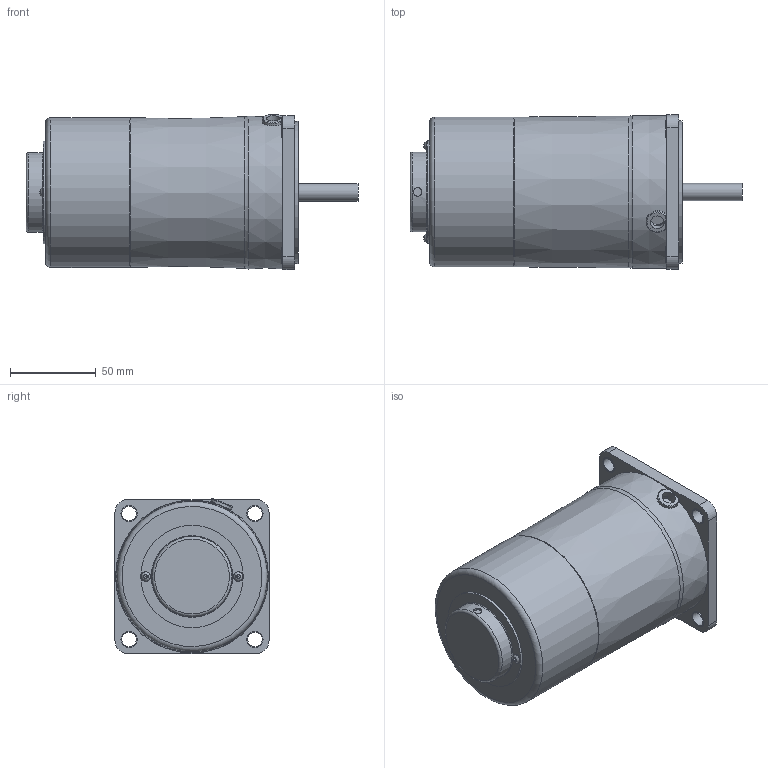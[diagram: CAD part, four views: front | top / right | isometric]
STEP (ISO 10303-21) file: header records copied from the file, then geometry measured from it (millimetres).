
FILE_DESCRIPTION(/* description */ (''),/* implementation_level */ '2;1');
FILE_NAME(/* name */ 'Y:\제품연구개발\3. 도면\3. 고객배포용\3D_홈페이지용\01-1 Standard AC SG Series\05-3 SPEED CONTROL ELECTROMAGNETIC BRAKE MOTOR(ES)\SG9R40_-ES12\SG9R40S-ES.stp',/* time_stamp */ '2023-12-01T09:17:35+09:00',/* author */ ('shyi1037'),/* organization */ (''),/* preprocessor_version */ 'ST-DEVELOPER v18.1',/* originating_system */ 'Autodesk Inventor 2022',/* authorisation */ '');
FILE_SCHEMA (('AUTOMOTIVE_DESIGN { 1 0 10303 214 3 1 1 }'));
Length unit declared in the file: millimetre
Products named in the file (1): S9R40S-ES
Bounding box: 194 x 90 x 90.6 mm (x, y, z)
Volume: 916888.8 mm3; surface area: 64204.1 mm2
Topology: 1 solids, 6 shells, 140 faces, 326 edges, 216 vertices
Faces by surface type: plane 83, cylinder 43, torus 10, cone 2, bspline 2
Full cylindrical faces by diameter (mm): 3 x2, 3.5 x2, 5 x1, 5.6 x2, 8 x1, 8.5 x4, 9.5 x4, 10 x2, 40 x1, 44.7 x1, 46.7 x1, 47.7 x1, 59.9 x1, 83 x1, 86 x1, 87.8 x1
Entity records: 4368 total; most frequent: CARTESIAN_POINT 1011, DIRECTION 682, ORIENTED_EDGE 652, EDGE_CURVE 326, AXIS2_PLACEMENT_3D 254, VERTEX_POINT 216, LINE 174, VECTOR 174
